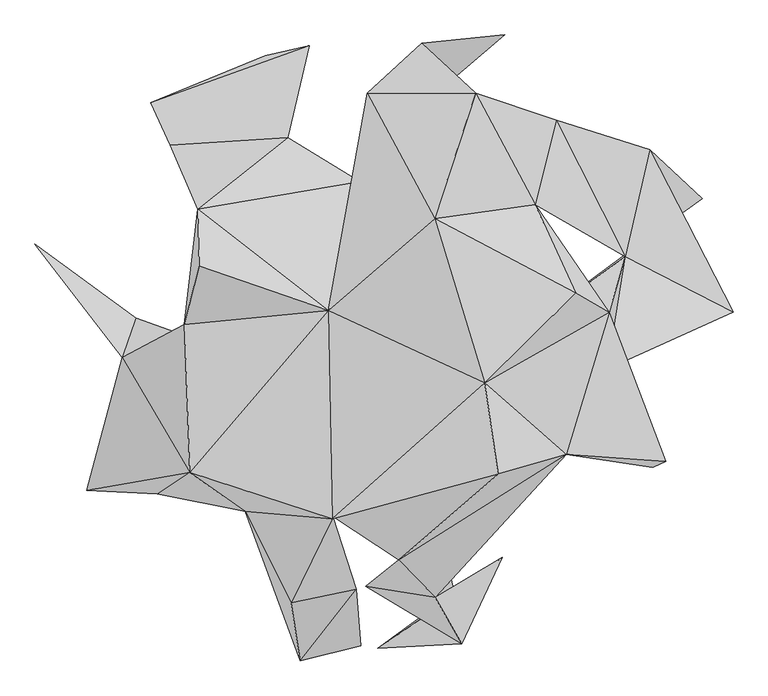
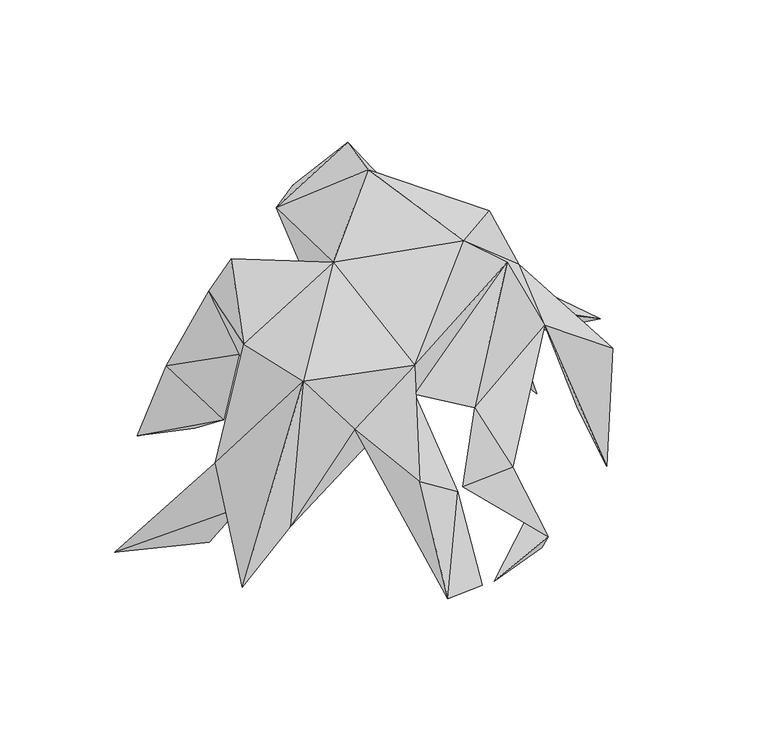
"""IFC4 building model written with IfcOpenShell, lengths in millimetres: geographic element geometry, Enscape AssetDefinition - Potted Plant 230 Grapevines : Enscape AssetDefinition - Potted Plant 230 Grapevines 2."""

from ifc_helpers import new_model, si_unit, origin, place, context, project, spatial, triangles, source, transform, mapped, element, save


def geographic_element_4fbb4c08(model_context):
    return source(origin(), model_context, "Body", "Tessellation", [
        triangles([(409.0359704, -224.374077, -209.5975807), (428.3387166, -215.1064559, 65.4775259), (339.8410297, -74.4907157, 101.0751895), (277.2534256, -205.0051466, 167.6863489), (364.389931, -186.8484424, -76.7104067), (342.4910133, 11.044627, 162.8911656), (531.004761, 11.7396995, -36.5016714), (215.4891542, -13.3594668, 163.4910745), (404.5200397, 258.4140595, -5.3930217), (402.6893011, 125.7213141, -102.1571093), (484.2383205, 184.0474505, -306.8995448), (364.609249, 237.1109086, -175.5700428), (367.2819057, 96.1662413, 4.3442059), (284.5330866, 229.645067, 0.7592017), (230.2056796, 175.3507793, 190.5037788), (262.3031572, 303.407625, 136.7142296), (291.6451707, 40.5872937, 292.7849994), (77.5047714, 153.5573421, 400.0000031), (140.1337429, 344.6796515, 328.3144077), (58.2578721, 420.8439342, 206.9434912), (153.9938344, -96.4455121, 351.717267), (-210.2823136, -291.2852181, 137.6285724), (-78.1543411, -302.7973788, 253.8712591), (-294.7254151, -231.7033898, 247.7934869), (-140.4626654, -430.5025017, 69.3914494), (23.1318616, -365.2091397, 152.4899109), (174.1881686, -234.6222887, 376.1896105), (-26.9051165, -405.0496222, 1.7935365), (67.4406918, -227.3095446, 175.3073227), (-76.950363, -299.2144216, 181.3147322), (-7.0024461, -85.7008372, 8.4112104), (-236.0020918, 126.3605375, 76.5242171), (89.7905949, 44.4743293, 32.6187825), (119.322922, 308.283472, 154.097262), (-24.9233288, 344.381741, 226.9268463), (-83.8700714, 13.7773386, 314.7232315), (-36.5409791, 209.8685852, 150.857725), (-145.667444, 276.6390372, 85.6904908), (-73.5349919, 52.6331609, -21.0859472), (-209.7796371, 232.9218474, -157.3099111), (-324.2328981, 265.2675838, -5.9039831), (-179.7404823, 401.7107998, -290.6915043), (-353.5728587, 330.3934233, -204.8293034), (-112.8045426, 416.7024356, -275.5054218), (-281.9307019, 168.5655467, 220.4725891), (-302.6877198, -7.1575965, 205.0692779), (-266.1819175, -37.0002216, 91.1352348), (-343.7590682, -264.4938847, -70.3513154), (-344.4500144, -65.0906899, -144.6806856), (-376.2702742, 2.4720599, -258.0975636), (-529.6931405, 115.0304332, -296.711304), (-397.0210788, -57.037357, -20.4343178), (-450.9389359, -259.2808489, -182.5249236), (-41.3754587, -409.4848529, -2.2445065), (-126.8011628, -518.2989232, -167.8311439), (-34.5840173, -495.7421242, -180.621733), (-280.2695569, 81.3421552, 351.2579927), (184.1012445, 433.1069939, -167.7814921), (90.5808264, 353.9886764, -80.1278489), (119.1036403, -492.6432944, -118.1706849), (78.2805234, -421.613473, 23.2559842), (-8.7235795, -499.6002462, -177.0201724), (108.4024221, -419.2779325, -119.3787779), (180.5017549, -360.8814606, -245.952411)], [[64, 62, 63], [62, 60, 63], [63, 60, 28], [64, 60, 62], [28, 60, 61], [63, 61, 64], [60, 64, 61], [59, 58, 20], [35, 58, 59], [20, 58, 35], [45, 46, 57], [45, 57, 36], [46, 36, 57], [36, 46, 24], [55, 56, 54], [25, 55, 54], [22, 55, 25], [54, 56, 22], [56, 55, 22], [30, 54, 22], [25, 54, 30], [24, 53, 48], [24, 48, 22], [30, 22, 48], [52, 53, 24], [52, 48, 53], [52, 24, 46], [50, 51, 52], [49, 48, 52], [51, 50, 49], [51, 49, 52], [47, 50, 52], [48, 49, 47], [30, 48, 47], [47, 52, 46], [49, 50, 47], [32, 46, 45], [47, 46, 32], [45, 41, 32], [44, 43, 41], [44, 42, 43], [43, 42, 40], [41, 40, 32], [41, 43, 40], [40, 42, 44], [45, 38, 41], [38, 44, 41], [32, 40, 38], [40, 44, 38], [39, 32, 38], [35, 37, 36], [45, 37, 38], [37, 45, 36], [39, 38, 37], [34, 59, 20], [34, 37, 35], [34, 35, 59], [33, 39, 37], [33, 37, 34], [47, 32, 31], [39, 31, 32], [31, 39, 33], [30, 47, 31], [8, 33, 34], [31, 33, 8], [29, 30, 31], [8, 29, 31], [4, 29, 8], [4, 61, 29], [61, 63, 29], [63, 28, 26], [28, 61, 26], [29, 26, 30], [63, 26, 29], [26, 61, 4], [26, 27, 30], [26, 4, 27], [23, 25, 30], [22, 23, 24], [24, 23, 36], [22, 25, 23], [30, 27, 23], [21, 23, 27], [27, 4, 21], [23, 21, 36], [6, 8, 34], [13, 8, 6], [21, 4, 6], [21, 6, 17], [35, 36, 18], [36, 21, 18], [18, 21, 17], [19, 20, 35], [19, 34, 20], [35, 18, 19], [15, 6, 34], [15, 19, 18], [18, 17, 15], [17, 6, 15], [19, 16, 34], [15, 16, 19], [13, 16, 15], [14, 13, 15], [34, 16, 14], [15, 34, 14], [14, 10, 13], [13, 10, 8], [14, 12, 10], [11, 10, 12], [13, 9, 16], [11, 12, 9], [10, 11, 9], [9, 14, 16], [12, 14, 9], [7, 10, 9], [13, 7, 9], [3, 4, 8], [3, 7, 13], [8, 10, 3], [7, 3, 10], [3, 13, 6], [5, 4, 3], [5, 1, 4], [4, 2, 6], [2, 3, 6], [2, 5, 3], [1, 2, 4], [2, 1, 5]]),
    ])


if __name__ == "__main__":
    model = new_model("IFC4")
    model_context = context("Model", 3, world=origin())
    ifc_project = project(units=[si_unit("LENGTHUNIT", "METRE", prefix="MILLI")], contexts=[model_context])
    site = spatial("IfcSite", under=ifc_project)
    building = spatial("IfcBuilding", under=site)
    placement = place(None, origin())
    geographic_element_shape = geographic_element_4fbb4c08(model_context)
    element("IfcGeographicElement", 1, ObjectType="Enscape AssetDefinition - Potted Plant 230 Grapevines : Enscape AssetDefinition - Potted Plant 230 Grapevines 2", at=placement, inside=building, context=model_context, shape_type="MappedRepresentation", body=[
        mapped(geographic_element_shape, transform((0.0, 0.0, 0.0), x_axis=(1.0, 0.0, 0.0), y_axis=(0.0, 1.0, 0.0), z_axis=(0.0, 0.0, 1.0))),
    ])
    save(model, "model.ifc")
